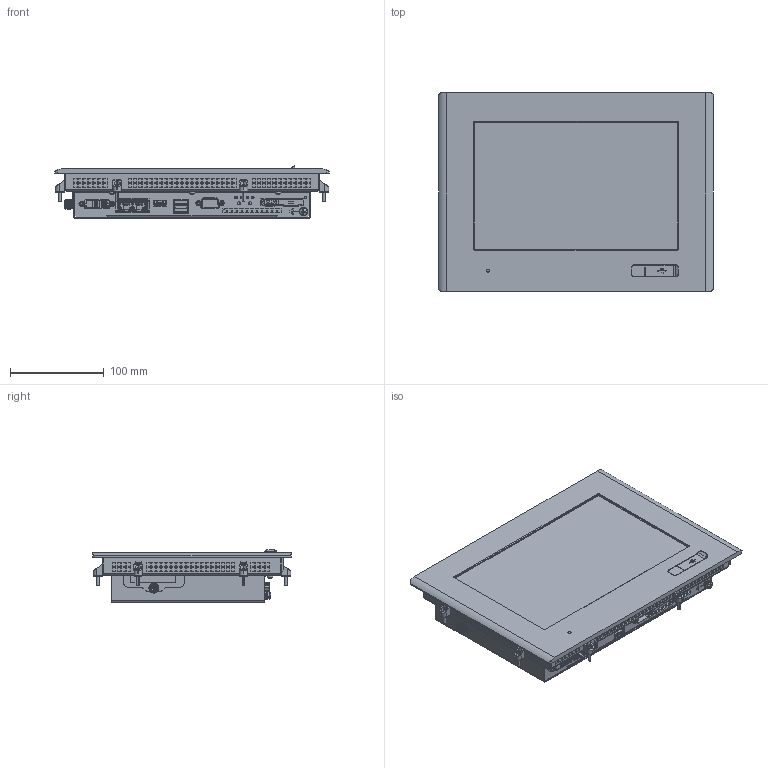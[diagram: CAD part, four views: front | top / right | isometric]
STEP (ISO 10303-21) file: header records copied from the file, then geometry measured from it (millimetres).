
FILE_DESCRIPTION((''),'2;1');
FILE_NAME('C6E22-Panel_101W_RES_SL','2017-02-23T',('manpal'),(''),'PRO/ENGINEER BY PARAMETRIC TECHNOLOGY CORPORATION, 2013410','PRO/ENGINEER BY PARAMETRIC TECHNOLOGY CORPORATION, 2013410','');
FILE_SCHEMA(('AUTOMOTIVE_DESIGN { 1 0 10303 214 1 1 1 1 }'));
Products named in the file (1): C6E22-Panel_101W_RES_SL_
Bounding box: 293 x 212 x 55.94 mm (x, y, z)
Surface area: 408703.9 mm2 (no closed solid volume)
Topology: 0 solids, 337 shells, 4183 faces, 16906 edges, 12910 vertices
Faces by surface type: plane 3374, cylinder 500, cone 160, bspline 101, torus 30, sphere 16, extrusion 2
Entity records: 200757 total; most frequent: CARTESIAN_POINT 45731, DIRECTION 26134, ORIENTED_EDGE 24554, EDGE_CURVE 16880, VECTOR 13660, LINE 13658, VERTEX_POINT 12910, AXIS2_PLACEMENT_3D 6237
